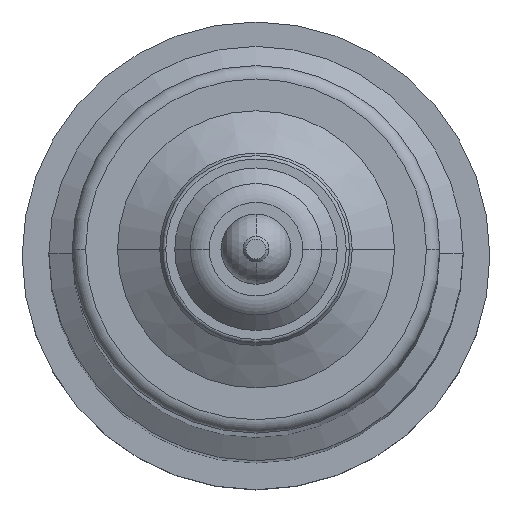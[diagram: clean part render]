
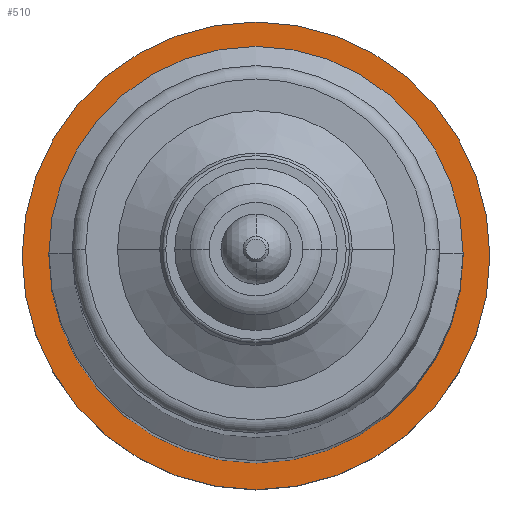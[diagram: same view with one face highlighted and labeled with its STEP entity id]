
A CAD part, top view. The second image highlights one B-rep face of the part: STEP entity #510.
In plain terms, the highlighted planar face has unit normal (0, 0, 1).
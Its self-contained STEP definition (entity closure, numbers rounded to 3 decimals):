
#14 = FACE_BOUND ( 'NONE', #568, .T. ) ;
#28 = EDGE_CURVE ( 'NONE', #190, #242, #933, .T. ) ;
#54 = ORIENTED_EDGE ( 'NONE', *, *, #28, .T. ) ;
#80 = CARTESIAN_POINT ( 'NONE',  ( -31., 0., 35. ) ) ;
#81 = DIRECTION ( 'NONE',  ( 0., 0., 1. ) ) ;
#107 = CIRCLE ( 'NONE', #915, 31. ) ;
#120 = EDGE_CURVE ( 'NONE', #818, #373, #107, .T. ) ;
#128 = ORIENTED_EDGE ( 'NONE', *, *, #171, .F. ) ;
#148 = CARTESIAN_POINT ( 'NONE',  ( 31., 0., 35. ) ) ;
#156 = DIRECTION ( 'NONE',  ( -1., 0., 0. ) ) ;
#157 = AXIS2_PLACEMENT_3D ( 'NONE', #386, #603, #620 ) ;
#171 = EDGE_CURVE ( 'NONE', #373, #818, #679, .T. ) ;
#181 = DIRECTION ( 'NONE',  ( -1., 0., 0. ) ) ;
#190 = VERTEX_POINT ( 'NONE', #350 ) ;
#204 = DIRECTION ( 'NONE',  ( -1., 0., 0. ) ) ;
#216 = AXIS2_PLACEMENT_3D ( 'NONE', #527, #81, #156 ) ;
#226 = DIRECTION ( 'NONE',  ( 0., 0., 1. ) ) ;
#242 = VERTEX_POINT ( 'NONE', #828 ) ;
#318 = EDGE_LOOP ( 'NONE', ( #590, #54 ) ) ;
#350 = CARTESIAN_POINT ( 'NONE',  ( -35., 0., 35. ) ) ;
#354 = CARTESIAN_POINT ( 'NONE',  ( 0., 0., 35. ) ) ;
#373 = VERTEX_POINT ( 'NONE', #80 ) ;
#386 = CARTESIAN_POINT ( 'NONE',  ( 0., 0., 35. ) ) ;
#392 = ORIENTED_EDGE ( 'NONE', *, *, #120, .F. ) ;
#429 = AXIS2_PLACEMENT_3D ( 'NONE', #354, #733, #204 ) ;
#445 = FACE_OUTER_BOUND ( 'NONE', #318, .T. ) ;
#453 = AXIS2_PLACEMENT_3D ( 'NONE', #929, #867, #699 ) ;
#501 = CIRCLE ( 'NONE', #157, 35. ) ;
#510 = ADVANCED_FACE ( 'NONE', ( #14, #445 ), #788, .T. ) ;
#527 = CARTESIAN_POINT ( 'NONE',  ( 0., 0., 35. ) ) ;
#568 = EDGE_LOOP ( 'NONE', ( #392, #128 ) ) ;
#590 = ORIENTED_EDGE ( 'NONE', *, *, #940, .T. ) ;
#603 = DIRECTION ( 'NONE',  ( 0., 0., 1. ) ) ;
#620 = DIRECTION ( 'NONE',  ( -1., 0., 0. ) ) ;
#679 = CIRCLE ( 'NONE', #429, 31. ) ;
#699 = DIRECTION ( 'NONE',  ( -1., 0., 0. ) ) ;
#733 = DIRECTION ( 'NONE',  ( 0., 0., 1. ) ) ;
#770 = CARTESIAN_POINT ( 'NONE',  ( 0., 0., 35. ) ) ;
#788 = PLANE ( 'NONE',  #453 ) ;
#818 = VERTEX_POINT ( 'NONE', #148 ) ;
#828 = CARTESIAN_POINT ( 'NONE',  ( 35., 0., 35. ) ) ;
#867 = DIRECTION ( 'NONE',  ( 0., 0., 1. ) ) ;
#915 = AXIS2_PLACEMENT_3D ( 'NONE', #770, #226, #181 ) ;
#929 = CARTESIAN_POINT ( 'NONE',  ( 0., 0., 35. ) ) ;
#933 = CIRCLE ( 'NONE', #216, 35. ) ;
#940 = EDGE_CURVE ( 'NONE', #242, #190, #501, .T. ) ;
